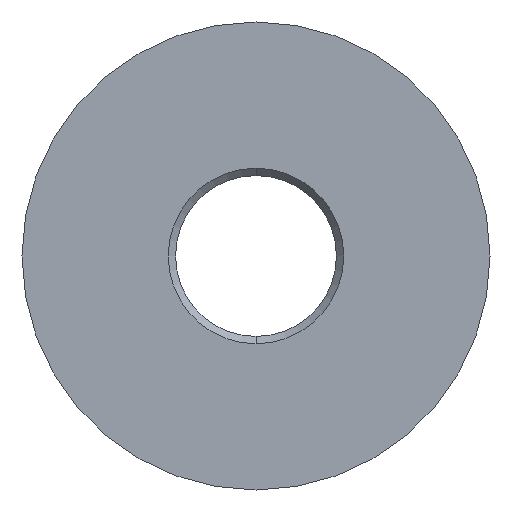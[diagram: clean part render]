
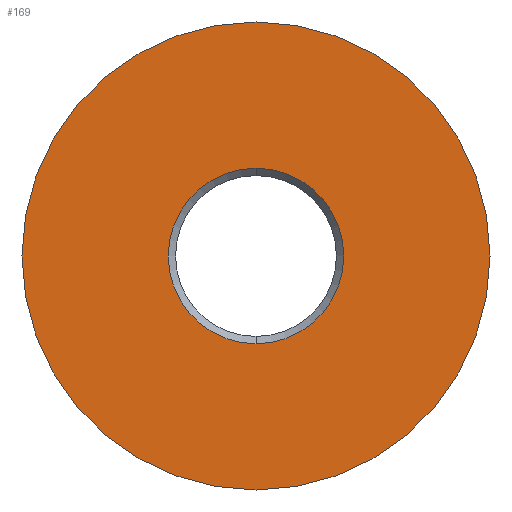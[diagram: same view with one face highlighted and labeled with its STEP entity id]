
A CAD part, front view. The second image highlights one B-rep face of the part: STEP entity #169.
In plain terms, the highlighted planar face has unit normal (0, -1, 0).
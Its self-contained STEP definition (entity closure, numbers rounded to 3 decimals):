
#8 = DIRECTION ( 'NONE',  ( 0., 0., -1. ) ) ;
#11 = CARTESIAN_POINT ( 'NONE',  ( 0., -5., 0. ) ) ;
#14 = CARTESIAN_POINT ( 'NONE',  ( 0., -5., -8. ) ) ;
#22 = CARTESIAN_POINT ( 'NONE',  ( 0., -5., 3. ) ) ;
#42 = EDGE_CURVE ( 'NONE', #266, #107, #306, .T. ) ;
#56 = CIRCLE ( 'NONE', #142, 8. ) ;
#69 = CARTESIAN_POINT ( 'NONE',  ( 0., -5., -3. ) ) ;
#76 = AXIS2_PLACEMENT_3D ( 'NONE', #173, #208, #128 ) ;
#91 = CIRCLE ( 'NONE', #149, 8. ) ;
#95 = FACE_OUTER_BOUND ( 'NONE', #282, .T. ) ;
#96 = EDGE_LOOP ( 'NONE', ( #236, #220 ) ) ;
#100 = EDGE_CURVE ( 'NONE', #352, #214, #56, .T. ) ;
#107 = VERTEX_POINT ( 'NONE', #22 ) ;
#111 = DIRECTION ( 'NONE',  ( 0., 0., -1. ) ) ;
#121 = CARTESIAN_POINT ( 'NONE',  ( 0., -5., 0. ) ) ;
#128 = DIRECTION ( 'NONE',  ( 0., 0., 1. ) ) ;
#129 = DIRECTION ( 'NONE',  ( 0., -1., 0. ) ) ;
#142 = AXIS2_PLACEMENT_3D ( 'NONE', #391, #388, #385 ) ;
#143 = PLANE ( 'NONE',  #76 ) ;
#148 = FACE_BOUND ( 'NONE', #96, .T. ) ;
#149 = AXIS2_PLACEMENT_3D ( 'NONE', #255, #154, #111 ) ;
#154 = DIRECTION ( 'NONE',  ( 0., -1., 0. ) ) ;
#159 = DIRECTION ( 'NONE',  ( 0., 0., -1. ) ) ;
#160 = EDGE_CURVE ( 'NONE', #214, #352, #91, .T. ) ;
#169 = ADVANCED_FACE ( 'NONE', ( #148, #95 ), #143, .F. ) ;
#173 = CARTESIAN_POINT ( 'NONE',  ( -3., -5., 0. ) ) ;
#205 = DIRECTION ( 'NONE',  ( 0., -1., 0. ) ) ;
#208 = DIRECTION ( 'NONE',  ( 0., 1., 0. ) ) ;
#214 = VERTEX_POINT ( 'NONE', #14 ) ;
#217 = ORIENTED_EDGE ( 'NONE', *, *, #100, .T. ) ;
#220 = ORIENTED_EDGE ( 'NONE', *, *, #303, .F. ) ;
#225 = ORIENTED_EDGE ( 'NONE', *, *, #160, .T. ) ;
#236 = ORIENTED_EDGE ( 'NONE', *, *, #42, .F. ) ;
#255 = CARTESIAN_POINT ( 'NONE',  ( 0., -5., 0. ) ) ;
#266 = VERTEX_POINT ( 'NONE', #69 ) ;
#273 = AXIS2_PLACEMENT_3D ( 'NONE', #11, #205, #8 ) ;
#282 = EDGE_LOOP ( 'NONE', ( #225, #217 ) ) ;
#302 = CIRCLE ( 'NONE', #273, 3. ) ;
#303 = EDGE_CURVE ( 'NONE', #107, #266, #302, .T. ) ;
#306 = CIRCLE ( 'NONE', #311, 3. ) ;
#311 = AXIS2_PLACEMENT_3D ( 'NONE', #121, #129, #159 ) ;
#352 = VERTEX_POINT ( 'NONE', #356 ) ;
#356 = CARTESIAN_POINT ( 'NONE',  ( 0., -5., 8. ) ) ;
#385 = DIRECTION ( 'NONE',  ( 0., 0., -1. ) ) ;
#388 = DIRECTION ( 'NONE',  ( 0., -1., 0. ) ) ;
#391 = CARTESIAN_POINT ( 'NONE',  ( 0., -5., 0. ) ) ;
